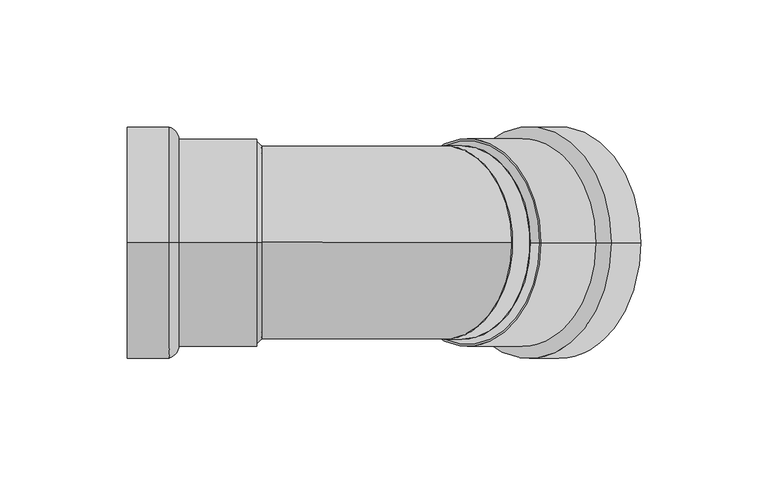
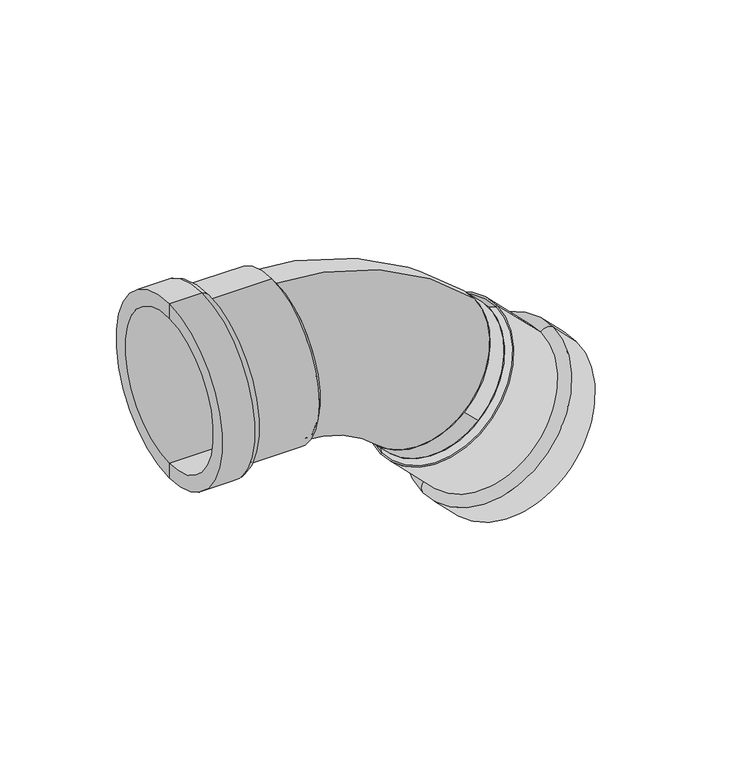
"""IFC4 building model written with IfcOpenShell, lengths in millimetres: pipe fitting geometry, VALTEC_VTi.959.I_Угольник 45° (раструб–раструб) нержавеющая сталь : Тип 1."""

from ifc_helpers import new_model, si_unit, point, frame, frame_2d, origin, origin_2d, place, context, project, spatial, polyline, circle_curve, ellipse_curve, trimmed, segment, composite_curve, outline, extrude, source, transform, mapped, element, save
from ifc_brep_helpers import plane_surface, cylinder_surface, revolved_surface, advanced_brep


def pipe_fitting_7b1898b2(model_context):
    return source(origin(), model_context, "Body", "SolidModel", [
        advanced_brep(
        [(2.81, 0.0, 39.9525), (2.81, 0.0, -39.9525), (4.81, 0.0, 38.05), (4.81, 0.0, -38.05)],
        [
            (0, 1, circle_curve(frame((2.81, 0.0, 0.0), z_axis=(-1.0, 0.0, 0.0), x_axis=(0.0, 0.0, 1.0)), 39.9525)),
            (1, 0, circle_curve(frame((2.81, 0.0, 0.0), z_axis=(-1.0, 0.0, 0.0), x_axis=(0.0, 0.0, -1.0)), 39.9525)),
            (2, 3, circle_curve(frame((4.81, 0.0, 0.0), z_axis=(1.0, 0.0, 0.0), x_axis=(0.0, 0.0, -1.0)), 38.05)),
            (3, 2, circle_curve(frame((4.81, 0.0, 0.0), z_axis=(1.0, 0.0, 0.0), x_axis=(0.0, 0.0, 1.0)), 38.05)),
            (3, 1),
            (0, 2),
        ],
        [
            plane_surface(frame((2.81, 0.0, 0.0), z_axis=(-1.0, 0.0, 0.0), x_axis=(0.0, 1.0, 0.0))),
            plane_surface(frame((4.81, 0.0, 0.0), z_axis=(1.0, 0.0, 0.0), x_axis=(0.0, 1.0, 0.0))),
            revolved_surface(polyline([(4.810000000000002, 0.0, -38.05), (2.8100000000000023, 0.0, -39.9525)]), (44.81, 0.0, 0.0), (-1.0, 0.0, 0.0)),
            revolved_surface(polyline([(4.810000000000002, 0.0, 38.05), (2.8100000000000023, 0.0, 39.9525)]), (44.81, 0.0, 0.0), (-1.0, 0.0, 0.0)),
        ],
        [
            (0, [[1, 2]]),
            (1, [[3, 4]]),
            (2, [[-4, 5, -1, 6]]),
            (3, [[-3, -6, -2, -5]]),
        ],
    ),
        advanced_brep(
        [(57.3136448, 0.0, -69.0799474), (113.8150122, 0.0, -12.5785801), (56.5375951, 0.0, -65.6133564), (110.3484212, 0.0, -11.8025304)],
        [
            (0, 1, circle_curve(frame((85.5643285, 0.0, -40.8292638), z_axis=(0.7071067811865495, 0.0, -0.7071067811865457), x_axis=(-0.7071067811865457, 0.0, -0.7071067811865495)), 39.9525)),
            (1, 0, circle_curve(frame((85.5643285, 0.0, -40.8292638), z_axis=(0.7071067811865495, 0.0, -0.7071067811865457), x_axis=(0.7071067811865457, 0.0, 0.7071067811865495)), 39.9525)),
            (2, 3, circle_curve(frame((83.4430082, 0.0, -38.7079434), z_axis=(-0.7071067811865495, 0.0, 0.7071067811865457), x_axis=(0.7071067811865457, 0.0, 0.7071067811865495)), 38.05)),
            (3, 2, circle_curve(frame((83.4430082, 0.0, -38.7079434), z_axis=(-0.7071067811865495, 0.0, 0.7071067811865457), x_axis=(-0.7071067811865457, 0.0, -0.7071067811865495)), 38.05)),
            (3, 1),
            (0, 2),
        ],
        [
            plane_surface(frame((85.5643285, 0.0, -40.8292638), z_axis=(0.7071067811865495, 0.0, -0.7071067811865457), x_axis=(0.0, 1.0, 0.0))),
            plane_surface(frame((83.4430082, 0.0, -38.7079434), z_axis=(-0.7071067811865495, 0.0, 0.7071067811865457), x_axis=(0.0, 1.0, 0.0))),
            revolved_surface(polyline([(110.34842111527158, 0.0, -11.802530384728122), (113.81501219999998, 0.0, -12.578580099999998)]), (41.0166013, 0.0, 3.7184635), (0.7071067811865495, 0.0, -0.7071067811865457)),
            revolved_surface(polyline([(56.537595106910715, 0.0, -65.61335639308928), (57.31364481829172, 0.0, -69.07994748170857)]), (41.0166013, 0.0, 3.7184635), (0.7071067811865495, 0.0, -0.7071067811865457)),
        ],
        [
            (0, [[1, 2]]),
            (1, [[3, 4]]),
            (2, [[-4, 5, -1, 6]]),
            (3, [[-3, -6, -2, -5]]),
        ],
    ),
        advanced_brep(
        [(-48.0, 0.0, -38.05), (-48.0, 0.0, 38.05), (-48.0, 0.0, 45.5), (-48.0, 0.0, -45.5), (2.81, 0.0, -38.05), (2.81, 0.0, 38.05), (2.81, 0.0, -40.75), (2.81, 0.0, 40.75), (-27.75, 0.0, -40.75), (-27.75, 0.0, 40.75), (-31.6, 0.0, -45.5), (-31.6, 0.0, 45.5)],
        [
            (0, 1, circle_curve(frame((-48.0, 0.0, 0.0), z_axis=(1.0, 0.0, 0.0), x_axis=(0.0, 0.0, 1.0)), 38.05)),
            (1, 2),
            (2, 3, circle_curve(frame((-48.0, 0.0, 0.0), z_axis=(-1.0, 0.0, 0.0), x_axis=(0.0, 0.0, 1.0)), 45.5)),
            (3, 0),
            (1, 0, circle_curve(frame((-48.0, 0.0, 0.0), z_axis=(1.0, 0.0, 0.0), x_axis=(0.0, 0.0, 1.0)), 38.05)),
            (3, 2, circle_curve(frame((-48.0, 0.0, 0.0), z_axis=(-1.0, 0.0, 0.0), x_axis=(0.0, 0.0, 1.0)), 45.5)),
            (4, 5, circle_curve(frame((2.81, 0.0, 0.0), z_axis=(1.0, 0.0, 0.0), x_axis=(0.0, 0.0, 1.0)), 38.05)),
            (5, 1),
            (0, 4),
            (5, 4, circle_curve(frame((2.81, 0.0, 0.0), z_axis=(1.0, 0.0, 0.0), x_axis=(0.0, 0.0, 1.0)), 38.05)),
            (6, 7, circle_curve(frame((2.81, 0.0, 0.0), z_axis=(1.0, 0.0, 0.0), x_axis=(0.0, 0.0, 1.0)), 40.75)),
            (7, 5),
            (4, 6),
            (7, 6, circle_curve(frame((2.81, 0.0, 0.0), z_axis=(1.0, 0.0, 0.0), x_axis=(0.0, 0.0, 1.0)), 40.75)),
            (8, 9, circle_curve(frame((-27.75, 0.0, 0.0), z_axis=(1.0, 0.0, 0.0), x_axis=(0.0, 0.0, 1.0)), 40.75)),
            (9, 7),
            (6, 8),
            (9, 8, circle_curve(frame((-27.75, 0.0, 0.0), z_axis=(1.0, 0.0, 0.0), x_axis=(0.0, 0.0, 1.0)), 40.75)),
            (10, 11, circle_curve(frame((-31.6, 0.0, 0.0), z_axis=(1.0, 0.0, 0.0), x_axis=(0.0, 0.0, 1.0)), 45.5)),
            (11, 9, circle_curve(frame((-32.4665873, 0.0, 40.862345), z_axis=(0.0, 1.0, 0.0), x_axis=(1.0, 0.0, 0.0)), 4.7179251)),
            (8, 10, circle_curve(frame((-32.4665873, 0.0, -40.862345), z_axis=(0.0, 1.0, 0.0), x_axis=(1.0, 0.0, 0.0)), 4.7179251)),
            (11, 10, circle_curve(frame((-31.6, 0.0, 0.0), z_axis=(1.0, 0.0, 0.0), x_axis=(0.0, 0.0, 1.0)), 45.5)),
            (2, 11),
            (10, 3),
        ],
        [
            plane_surface(frame((-48.0, 0.0, 0.0), z_axis=(-1.0, 0.0, 0.0), x_axis=(0.0, 0.0, 1.0))),
            revolved_surface(polyline([(-48.0, 0.0, 38.05), (2.8099999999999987, 0.0, 38.05)]), (-18.1506392, 0.0, 0.0), (-1.0, 0.0, 0.0)),
            plane_surface(frame((2.81, 0.0, 0.0), z_axis=(1.0, 0.0, 0.0), x_axis=(0.0, 0.0, 1.0))),
            cylinder_surface(frame((-18.1506392, 0.0, 0.0), z_axis=(-1.0, 0.0, 0.0), x_axis=(0.0, 0.0, 1.0)), 40.75),
            revolved_surface(trimmed(ellipse_curve(frame((-32.4665873, 0.0, 40.862345), z_axis=(0.0, -1.0, 0.0), x_axis=(1.0, 0.0, 0.0)), 4.7179251, 4.7179251), [point((-27.75, 0.0, 40.75))], [point((-31.6, 0.0, 45.5))], True, "CARTESIAN"), (-18.1506392, 0.0, 0.0), (-1.0, 0.0, 0.0)),
            cylinder_surface(frame((-18.1506392, 0.0, 0.0), z_axis=(-1.0, 0.0, 0.0), x_axis=(0.0, 0.0, 1.0)), 45.5),
        ],
        [
            (0, [[1, 2, 3, 4]]),
            (0, [[5, -4, 6, -2]]),
            (1, [[7, 8, -1, 9]]),
            (1, [[10, -9, -5, -8]]),
            (2, [[11, 12, -7, 13]]),
            (2, [[14, -13, -10, -12]]),
            (3, [[15, 16, -11, 17]]),
            (3, [[18, -17, -14, -16]]),
            (4, [[19, 20, -15, 21]]),
            (4, [[22, -21, -18, -20]]),
            (5, [[-3, 23, -19, 24]]),
            (5, [[-6, -24, -22, -23]]),
        ],
    ),
        advanced_brep(
        [(148.3978371, 0.0, -49.8519463), (94.587011, 0.0, -103.6627723), (89.3190655, 0.0, -108.9307179), (153.6657826, 0.0, -44.5840008), (112.4697415, 0.0, -13.9238507), (58.6589155, 0.0, -67.7346768), (114.3789298, 0.0, -12.0146624), (56.7497272, 0.0, -69.6438651), (135.9881131, 0.0, -33.6238457), (78.3589104, 0.0, -91.2530483), (142.0692314, 0.0, -32.9874496), (77.7225143, 0.0, -97.3341666)],
        [
            (0, 1, circle_curve(frame((121.492424, 0.0, -76.7573593), z_axis=(-0.7071067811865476, 0.0, 0.7071067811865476), x_axis=(-0.7071067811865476, 0.0, -0.7071067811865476)), 38.05)),
            (1, 2),
            (2, 3, circle_curve(frame((121.492424, 0.0, -76.7573593), z_axis=(0.7071067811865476, 0.0, -0.7071067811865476), x_axis=(-0.7071067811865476, 0.0, -0.7071067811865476)), 45.5)),
            (3, 0),
            (1, 0, circle_curve(frame((121.492424, 0.0, -76.7573593), z_axis=(-0.7071067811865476, 0.0, 0.7071067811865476), x_axis=(-0.7071067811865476, 0.0, -0.7071067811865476)), 38.05)),
            (3, 2, circle_curve(frame((121.492424, 0.0, -76.7573593), z_axis=(0.7071067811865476, 0.0, -0.7071067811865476), x_axis=(-0.7071067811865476, 0.0, -0.7071067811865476)), 45.5)),
            (4, 5, circle_curve(frame((85.5643285, 0.0, -40.8292638), z_axis=(-0.7071067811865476, 0.0, 0.7071067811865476), x_axis=(-0.7071067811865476, 0.0, -0.7071067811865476)), 38.05)),
            (5, 1),
            (0, 4),
            (5, 4, circle_curve(frame((85.5643285, 0.0, -40.8292638), z_axis=(-0.7071067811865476, 0.0, 0.7071067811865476), x_axis=(-0.7071067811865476, 0.0, -0.7071067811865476)), 38.05)),
            (6, 7, circle_curve(frame((85.5643285, 0.0, -40.8292638), z_axis=(-0.7071067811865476, 0.0, 0.7071067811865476), x_axis=(-0.7071067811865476, 0.0, -0.7071067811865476)), 40.75)),
            (7, 5),
            (4, 6),
            (7, 6, circle_curve(frame((85.5643285, 0.0, -40.8292638), z_axis=(-0.7071067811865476, 0.0, 0.7071067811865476), x_axis=(-0.7071067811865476, 0.0, -0.7071067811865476)), 40.75)),
            (8, 9, circle_curve(frame((107.1735117, 0.0, -62.438447), z_axis=(-0.7071067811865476, 0.0, 0.7071067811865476), x_axis=(-0.7071067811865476, 0.0, -0.7071067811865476)), 40.75)),
            (9, 7),
            (6, 8),
            (9, 8, circle_curve(frame((107.1735117, 0.0, -62.438447), z_axis=(-0.7071067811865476, 0.0, 0.7071067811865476), x_axis=(-0.7071067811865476, 0.0, -0.7071067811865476)), 40.75)),
            (10, 11, circle_curve(frame((109.8958728, 0.0, -65.1608081), z_axis=(-0.7071067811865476, 0.0, 0.7071067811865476), x_axis=(-0.7071067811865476, 0.0, -0.7071067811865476)), 45.5)),
            (11, 9, circle_curve(frame((81.6146014, 0.0, -94.6676191), z_axis=(0.0, 1.0, 0.0), x_axis=(-0.7071067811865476, 0.0, 0.7071067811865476)), 4.7179251)),
            (8, 10, circle_curve(frame((139.4026839, 0.0, -36.8795366), z_axis=(0.0, 1.0, 0.0), x_axis=(-0.7071067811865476, 0.0, 0.7071067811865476)), 4.7179251)),
            (11, 10, circle_curve(frame((109.8958728, 0.0, -65.1608081), z_axis=(-0.7071067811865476, 0.0, 0.7071067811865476), x_axis=(-0.7071067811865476, 0.0, -0.7071067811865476)), 45.5)),
            (2, 11),
            (10, 3),
        ],
        [
            plane_surface(frame((121.492424, 0.0, -76.7573593), z_axis=(0.7071067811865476, 0.0, -0.7071067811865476), x_axis=(-0.7071067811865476, 0.0, -0.7071067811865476))),
            revolved_surface(polyline([(94.58701102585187, 0.0, -103.66277237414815), (58.65891542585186, 0.0, -67.73467677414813)]), (100.3857386, 0.0, -55.6506739), (0.7071067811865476, 0.0, -0.7071067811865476)),
            plane_surface(frame((85.5643285, 0.0, -40.8292638), z_axis=(-0.7071067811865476, 0.0, 0.7071067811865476), x_axis=(-0.7071067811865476, 0.0, -0.7071067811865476))),
            cylinder_surface(frame((100.3857386, 0.0, -55.6506739), z_axis=(0.7071067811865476, 0.0, -0.7071067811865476), x_axis=(-0.7071067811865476, 0.0, -0.7071067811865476)), 40.75),
            revolved_surface(trimmed(ellipse_curve(frame((81.6146014, 0.0, -94.6676191), z_axis=(0.0, -1.0, 0.0), x_axis=(-0.7071067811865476, 0.0, 0.7071067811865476)), 4.7179251, 4.7179251), [point((78.3589104, 0.0, -91.2530483))], [point((77.7225143, 0.0, -97.3341666))], True, "CARTESIAN"), (100.3857386, 0.0, -55.6506739), (0.7071067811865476, 0.0, -0.7071067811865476)),
            cylinder_surface(frame((100.3857386, 0.0, -55.6506739), z_axis=(0.7071067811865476, 0.0, -0.7071067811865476), x_axis=(-0.7071067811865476, 0.0, -0.7071067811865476)), 45.5),
        ],
        [
            (0, [[1, 2, 3, 4]]),
            (0, [[5, -4, 6, -2]]),
            (1, [[7, 8, -1, 9]]),
            (1, [[10, -9, -5, -8]]),
            (2, [[11, 12, -7, 13]]),
            (2, [[14, -13, -10, -12]]),
            (3, [[15, 16, -11, 17]]),
            (3, [[18, -17, -14, -16]]),
            (4, [[19, 20, -15, 21]]),
            (4, [[22, -21, -18, -20]]),
            (5, [[-3, 23, -19, 24]]),
            (5, [[-6, -24, -22, -23]]),
        ],
    ),
        extrude(outline(composite_curve([segment(trimmed(circle_curve(origin_2d(), 38.05), [point((-38.05, 0.0))], [point((38.05, 0.0))], False, "CARTESIAN"), True, "CONTINUOUS"), segment(trimmed(circle_curve(origin_2d(), 38.05), [point((38.05, 0.0))], [point((-38.05, 0.0))], False, "CARTESIAN"), True, "CONTINUOUS")], self_intersect=False)), frame((0.0, 0.0, 0.0), z_axis=(1.0, 0.0, 0.0), x_axis=(0.0, 1.0, 0.0)), (0.0, 0.0, 1.0), 4.81),
        extrude(outline(composite_curve([segment(trimmed(circle_curve(frame_2d((0.0, -38.05)), 38.05), [point((0.0, -76.1))], [point((0.0, 0.0))], False, "CARTESIAN"), True, "CONTINUOUS"), segment(trimmed(circle_curve(frame_2d((0.0, -38.05)), 38.05), [point((0.0, 0.0))], [point((0.0, -76.1))], False, "CARTESIAN"), True, "CONTINUOUS")], self_intersect=False)), frame((83.4430082, -38.05, -38.7079434), z_axis=(-0.7071067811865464, 0.0, 0.7071067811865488), x_axis=(-0.7071067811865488, 0.0, -0.7071067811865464)), (0.0, 0.0, 1.0), 10.0062338),
        advanced_brep(
        [(0.0, 0.0, -38.05), (0.0, 0.0, 38.05), (49.4621193, 0.0, -58.5378807), (103.2729454, 0.0, -4.7270546)],
        [
            (0, 1, circle_curve(frame((0.0, 0.0, 0.0), z_axis=(-1.0, 0.0, 0.0), x_axis=(0.0, 0.0, 1.0)), 38.05)),
            (1, 0, circle_curve(frame((0.0, 0.0, 0.0), z_axis=(-1.0, 0.0, 0.0), x_axis=(0.0, 0.0, 1.0)), 38.05)),
            (2, 3, circle_curve(frame((76.3675324, 0.0, -31.6324676), z_axis=(0.7071067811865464, 0.0, -0.7071067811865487), x_axis=(0.7071067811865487, 0.0, 0.7071067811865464)), 38.05)),
            (3, 2, circle_curve(frame((76.3675324, 0.0, -31.6324676), z_axis=(0.7071067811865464, 0.0, -0.7071067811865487), x_axis=(0.7071067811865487, 0.0, 0.7071067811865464)), 38.05)),
            (3, 1, circle_curve(frame((0.0, 0.0, -108.0), z_axis=(0.0, -1.0, 0.0), x_axis=(0.0, 0.0, 1.0)), 146.05)),
            (0, 2, circle_curve(frame((0.0, 0.0, -108.0), z_axis=(0.0, 1.0, 0.0), x_axis=(0.0, 0.0, 1.0)), 69.95)),
        ],
        [
            plane_surface(frame((0.0, 0.0, 0.0), z_axis=(-1.0, 0.0, 0.0), x_axis=(0.0, -1.0, 0.0))),
            plane_surface(frame((76.3675324, 0.0, -31.6324676), z_axis=(0.7071067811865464, 0.0, -0.7071067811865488), x_axis=(0.0, -1.0, 0.0))),
            revolved_surface(trimmed(ellipse_curve(frame((0.0, 0.0, 0.0), z_axis=(-1.0, 0.0, 0.0), x_axis=(0.0, 0.0, 1.0)), 38.05, 38.05), [point((0.0, 0.0, -38.05))], [point((0.0, 0.0, 38.05))], True, "CARTESIAN"), (0.0, 0.0, -108.0), (0.0, 1.0, 0.0)),
            revolved_surface(trimmed(ellipse_curve(frame((0.0, 0.0, 0.0), z_axis=(-1.0, 0.0, 0.0), x_axis=(0.0, 0.0, 1.0)), 38.05, 38.05), [point((0.0, 0.0, 38.05))], [point((0.0, 0.0, -38.05))], True, "CARTESIAN"), (0.0, 0.0, -108.0), (0.0, 1.0, 0.0)),
        ],
        [
            (0, [[1, 2]]),
            (1, [[3, 4]]),
            (2, [[5, -1, 6, -4]]),
            (3, [[-6, -2, -5, -3]]),
        ],
    ),
    ])


if __name__ == "__main__":
    model = new_model("IFC4")
    model_context = context("Model", 3, world=origin())
    ifc_project = project(units=[si_unit("LENGTHUNIT", "METRE", prefix="MILLI")], contexts=[model_context])
    site = spatial("IfcSite", under=ifc_project)
    building = spatial("IfcBuilding", under=site)
    placement = place(None, origin())
    pipe_fitting_shape = pipe_fitting_7b1898b2(model_context)
    element("IfcPipeFitting", 1, ObjectType="VALTEC_VTi.959.I_Угольник 45° (раструб–раструб) нержавеющая сталь : Тип 1", at=placement, inside=building, context=model_context, shape_type="MappedRepresentation", body=[
        mapped(pipe_fitting_shape, transform((0.0, 0.0, 0.0), x_axis=(1.0, 0.0, 0.0), y_axis=(0.0, 1.0, 0.0), z_axis=(0.0, 0.0, 1.0))),
    ])
    save(model, "model.ifc")
